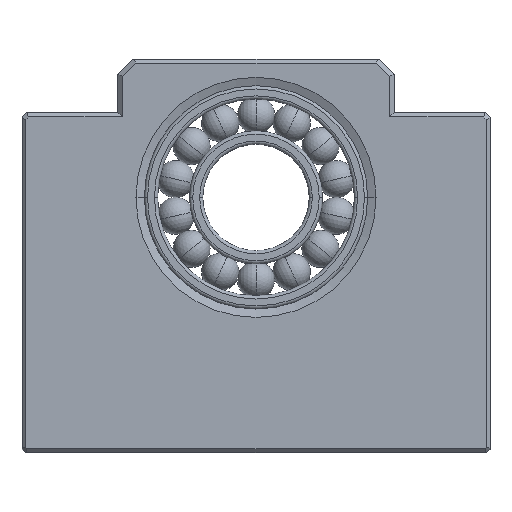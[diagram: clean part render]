
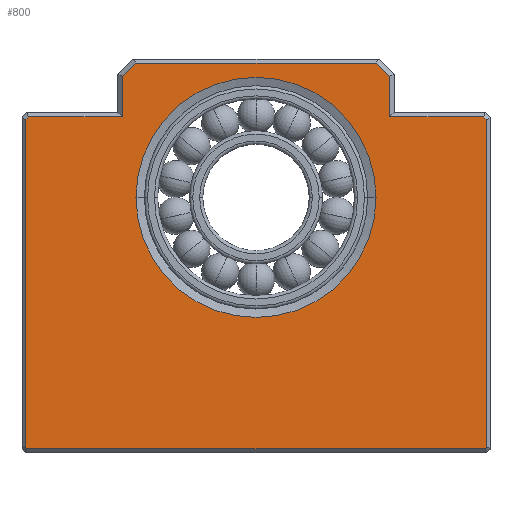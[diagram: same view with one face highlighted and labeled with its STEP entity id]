
A CAD part, top view. The second image highlights one B-rep face of the part: STEP entity #800.
In plain terms, the highlighted planar face has unit normal (0, 0, 1).
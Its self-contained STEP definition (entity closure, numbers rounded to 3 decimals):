
#22 = VERTEX_POINT ( 'NONE', #2294 ) ;
#23 = VERTEX_POINT ( 'NONE', #2525 ) ;
#37 = VERTEX_POINT ( 'NONE', #2075 ) ;
#53 = VERTEX_POINT ( 'NONE', #1932 ) ;
#216 = EDGE_CURVE ( 'NONE', #53, #3303, #1526, .T. ) ;
#226 = LINE ( 'NONE', #2478, #2609 ) ;
#244 = VERTEX_POINT ( 'NONE', #2120 ) ;
#268 = EDGE_CURVE ( 'NONE', #3291, #1207, #2176, .T. ) ;
#355 = VERTEX_POINT ( 'NONE', #2586 ) ;
#414 = VERTEX_POINT ( 'NONE', #915 ) ;
#451 = EDGE_LOOP ( 'NONE', ( #689, #1286 ) ) ;
#540 = CIRCLE ( 'NONE', #1963, 22.575 ) ;
#542 = VERTEX_POINT ( 'NONE', #3075 ) ;
#554 = EDGE_LOOP ( 'NONE', ( #921, #1542, #1405, #1621, #1447, #1557, #1263, #1485, #1527, #1626, #1643, #1660, #1673, #1696 ) ) ;
#562 = DIRECTION ( 'NONE',  ( 0., -1., 0. ) ) ;
#572 = CARTESIAN_POINT ( 'NONE',  ( -43.275, -37.125, -0.125 ) ) ;
#577 = EDGE_CURVE ( 'NONE', #244, #3330, #540, .T. ) ;
#689 = ORIENTED_EDGE ( 'NONE', *, *, #577, .T. ) ;
#800 = ADVANCED_FACE ( 'NONE', ( #937, #3021 ), #2148, .F. ) ;
#833 = EDGE_CURVE ( 'NONE', #414, #542, #2940, .T. ) ;
#837 = DIRECTION ( 'NONE',  ( -0.707, -0.707, 0. ) ) ;
#845 = VERTEX_POINT ( 'NONE', #1762 ) ;
#848 = EDGE_CURVE ( 'NONE', #1207, #355, #3493, .T. ) ;
#852 = CARTESIAN_POINT ( 'NONE',  ( -75.091, -6.184, -0.125 ) ) ;
#858 = VERTEX_POINT ( 'NONE', #1973 ) ;
#915 = CARTESIAN_POINT ( 'NONE',  ( 43.275, 25.633, -0.125 ) ) ;
#921 = ORIENTED_EDGE ( 'NONE', *, *, #2432, .T. ) ;
#929 = VERTEX_POINT ( 'NONE', #1767 ) ;
#937 = FACE_BOUND ( 'NONE', #451, .T. ) ;
#946 = VECTOR ( 'NONE', #2451, 1000. ) ;
#979 = CARTESIAN_POINT ( 'NONE',  ( 43.15, -36.25, -0.125 ) ) ;
#994 = DIRECTION ( 'NONE',  ( 0., -1., 0. ) ) ;
#995 = CARTESIAN_POINT ( 'NONE',  ( -25.125, -37.125, -0.125 ) ) ;
#1066 = AXIS2_PLACEMENT_3D ( 'NONE', #2202, #2067, #2052 ) ;
#1109 = CARTESIAN_POINT ( 'NONE',  ( -44.15, 36.25, -0.125 ) ) ;
#1161 = DIRECTION ( 'NONE',  ( -1., 0., 0. ) ) ;
#1207 = VERTEX_POINT ( 'NONE', #979 ) ;
#1263 = ORIENTED_EDGE ( 'NONE', *, *, #268, .T. ) ;
#1286 = ORIENTED_EDGE ( 'NONE', *, *, #2117, .T. ) ;
#1361 = EDGE_CURVE ( 'NONE', #37, #845, #3370, .T. ) ;
#1362 = DIRECTION ( 'NONE',  ( -1., 0., 0. ) ) ;
#1373 = CARTESIAN_POINT ( 'NONE',  ( -22.575, 10.995, -0.125 ) ) ;
#1405 = ORIENTED_EDGE ( 'NONE', *, *, #1886, .T. ) ;
#1420 = VECTOR ( 'NONE', #562, 1000. ) ;
#1426 = CARTESIAN_POINT ( 'NONE',  ( -22.638, 36.25, -0.125 ) ) ;
#1447 = ORIENTED_EDGE ( 'NONE', *, *, #1361, .T. ) ;
#1485 = ORIENTED_EDGE ( 'NONE', *, *, #848, .T. ) ;
#1526 = LINE ( 'NONE', #1109, #2765 ) ;
#1527 = ORIENTED_EDGE ( 'NONE', *, *, #2667, .T. ) ;
#1529 = LINE ( 'NONE', #1831, #2766 ) ;
#1542 = ORIENTED_EDGE ( 'NONE', *, *, #3456, .T. ) ;
#1557 = ORIENTED_EDGE ( 'NONE', *, *, #2327, .T. ) ;
#1568 = CARTESIAN_POINT ( 'NONE',  ( -43.15, -36.25, -0.125 ) ) ;
#1621 = ORIENTED_EDGE ( 'NONE', *, *, #3501, .T. ) ;
#1626 = ORIENTED_EDGE ( 'NONE', *, *, #833, .T. ) ;
#1643 = ORIENTED_EDGE ( 'NONE', *, *, #3120, .T. ) ;
#1654 = CARTESIAN_POINT ( 'NONE',  ( -44.15, 26.12, -0.125 ) ) ;
#1660 = ORIENTED_EDGE ( 'NONE', *, *, #1712, .T. ) ;
#1671 = AXIS2_PLACEMENT_3D ( 'NONE', #3393, #3072, #3389 ) ;
#1673 = ORIENTED_EDGE ( 'NONE', *, *, #2503, .T. ) ;
#1696 = ORIENTED_EDGE ( 'NONE', *, *, #216, .T. ) ;
#1712 = EDGE_CURVE ( 'NONE', #2304, #858, #2485, .T. ) ;
#1713 = DIRECTION ( 'NONE',  ( 1., 0., 0. ) ) ;
#1762 = CARTESIAN_POINT ( 'NONE',  ( -43.275, -36.125, -0.125 ) ) ;
#1767 = CARTESIAN_POINT ( 'NONE',  ( -25.125, 26.12, -0.125 ) ) ;
#1785 = CARTESIAN_POINT ( 'NONE',  ( -70.081, -11.194, -0.125 ) ) ;
#1831 = CARTESIAN_POINT ( 'NONE',  ( -44.15, 26.12, -0.125 ) ) ;
#1886 = EDGE_CURVE ( 'NONE', #929, #23, #1529, .T. ) ;
#1932 = CARTESIAN_POINT ( 'NONE',  ( 22.638, 36.25, -0.125 ) ) ;
#1963 = AXIS2_PLACEMENT_3D ( 'NONE', #3112, #3151, #3172 ) ;
#1973 = CARTESIAN_POINT ( 'NONE',  ( 25.125, 33.763, -0.125 ) ) ;
#1983 = DIRECTION ( 'NONE',  ( 0.707, 0.707, 0. ) ) ;
#2020 = CARTESIAN_POINT ( 'NONE',  ( 42.713, -36.687, -0.125 ) ) ;
#2052 = DIRECTION ( 'NONE',  ( -1., 0., 0. ) ) ;
#2060 = LINE ( 'NONE', #852, #3171 ) ;
#2062 = VECTOR ( 'NONE', #1362, 1000. ) ;
#2067 = DIRECTION ( 'NONE',  ( 0., 0., -1. ) ) ;
#2074 = CARTESIAN_POINT ( 'NONE',  ( -44.15, -36.25, -0.125 ) ) ;
#2075 = CARTESIAN_POINT ( 'NONE',  ( -43.275, 25.633, -0.125 ) ) ;
#2093 = LINE ( 'NONE', #2848, #3205 ) ;
#2117 = EDGE_CURVE ( 'NONE', #3330, #244, #2384, .T. ) ;
#2120 = CARTESIAN_POINT ( 'NONE',  ( 22.575, 10.995, -0.125 ) ) ;
#2143 = LINE ( 'NONE', #1654, #2062 ) ;
#2148 = PLANE ( 'NONE',  #1066 ) ;
#2153 = DIRECTION ( 'NONE',  ( -0.707, 0.707, 0. ) ) ;
#2176 = LINE ( 'NONE', #2074, #3290 ) ;
#2200 = CARTESIAN_POINT ( 'NONE',  ( 30.941, 37.966, -0.125 ) ) ;
#2202 = CARTESIAN_POINT ( 'NONE',  ( 55.392, 53.874, -0.125 ) ) ;
#2294 = CARTESIAN_POINT ( 'NONE',  ( -25.125, 33.763, -0.125 ) ) ;
#2304 = VERTEX_POINT ( 'NONE', #3284 ) ;
#2315 = CARTESIAN_POINT ( 'NONE',  ( 25.125, -37.125, -0.125 ) ) ;
#2316 = VECTOR ( 'NONE', #994, 1000. ) ;
#2327 = EDGE_CURVE ( 'NONE', #845, #3291, #2613, .T. ) ;
#2345 = VECTOR ( 'NONE', #1983, 1000. ) ;
#2347 = LINE ( 'NONE', #1785, #3435 ) ;
#2384 = CIRCLE ( 'NONE', #1671, 22.575 ) ;
#2417 = VECTOR ( 'NONE', #2153, 1000. ) ;
#2432 = EDGE_CURVE ( 'NONE', #3303, #22, #2347, .T. ) ;
#2451 = DIRECTION ( 'NONE',  ( 0., 1., 0. ) ) ;
#2477 = DIRECTION ( 'NONE',  ( 0., 1., 0. ) ) ;
#2478 = CARTESIAN_POINT ( 'NONE',  ( 43.275, -37.125, -0.125 ) ) ;
#2485 = LINE ( 'NONE', #2315, #946 ) ;
#2503 = EDGE_CURVE ( 'NONE', #858, #53, #2093, .T. ) ;
#2525 = CARTESIAN_POINT ( 'NONE',  ( -42.788, 26.12, -0.125 ) ) ;
#2543 = VECTOR ( 'NONE', #3250, 1000. ) ;
#2586 = CARTESIAN_POINT ( 'NONE',  ( 43.275, -36.125, -0.125 ) ) ;
#2609 = VECTOR ( 'NONE', #2477, 1000. ) ;
#2613 = LINE ( 'NONE', #3259, #2543 ) ;
#2667 = EDGE_CURVE ( 'NONE', #355, #414, #226, .T. ) ;
#2765 = VECTOR ( 'NONE', #1161, 1000. ) ;
#2766 = VECTOR ( 'NONE', #3062, 1000. ) ;
#2796 = LINE ( 'NONE', #995, #2316 ) ;
#2841 = DIRECTION ( 'NONE',  ( -0.707, 0.707, 0. ) ) ;
#2848 = CARTESIAN_POINT ( 'NONE',  ( 25.931, 32.956, -0.125 ) ) ;
#2940 = LINE ( 'NONE', #2200, #2417 ) ;
#3021 = FACE_OUTER_BOUND ( 'NONE', #554, .T. ) ;
#3062 = DIRECTION ( 'NONE',  ( -1., 0., 0. ) ) ;
#3072 = DIRECTION ( 'NONE',  ( 0., 0., -1. ) ) ;
#3075 = CARTESIAN_POINT ( 'NONE',  ( 42.788, 26.12, -0.125 ) ) ;
#3112 = CARTESIAN_POINT ( 'NONE',  ( 0., 10.995, -0.125 ) ) ;
#3120 = EDGE_CURVE ( 'NONE', #542, #2304, #2143, .T. ) ;
#3151 = DIRECTION ( 'NONE',  ( 0., 0., -1. ) ) ;
#3171 = VECTOR ( 'NONE', #837, 1000. ) ;
#3172 = DIRECTION ( 'NONE',  ( -1., 0., 0. ) ) ;
#3205 = VECTOR ( 'NONE', #2841, 1000. ) ;
#3236 = DIRECTION ( 'NONE',  ( -0.707, -0.707, 0. ) ) ;
#3250 = DIRECTION ( 'NONE',  ( 0.707, -0.707, 0. ) ) ;
#3259 = CARTESIAN_POINT ( 'NONE',  ( -43.712, -35.688, -0.125 ) ) ;
#3284 = CARTESIAN_POINT ( 'NONE',  ( 25.125, 26.12, -0.125 ) ) ;
#3290 = VECTOR ( 'NONE', #1713, 1000. ) ;
#3291 = VERTEX_POINT ( 'NONE', #1568 ) ;
#3303 = VERTEX_POINT ( 'NONE', #1426 ) ;
#3330 = VERTEX_POINT ( 'NONE', #1373 ) ;
#3370 = LINE ( 'NONE', #572, #1420 ) ;
#3389 = DIRECTION ( 'NONE',  ( -1., 0., 0. ) ) ;
#3393 = CARTESIAN_POINT ( 'NONE',  ( 0., 10.995, -0.125 ) ) ;
#3435 = VECTOR ( 'NONE', #3236, 1000. ) ;
#3456 = EDGE_CURVE ( 'NONE', #22, #929, #2796, .T. ) ;
#3493 = LINE ( 'NONE', #2020, #2345 ) ;
#3501 = EDGE_CURVE ( 'NONE', #23, #37, #2060, .T. ) ;
